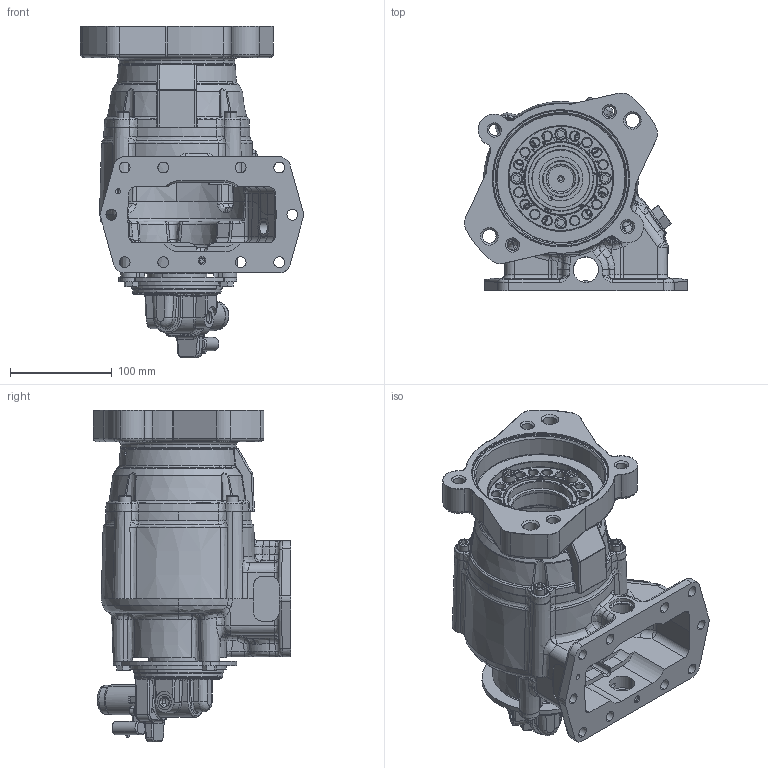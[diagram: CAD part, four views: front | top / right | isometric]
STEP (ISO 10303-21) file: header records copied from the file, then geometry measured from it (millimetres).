
FILE_DESCRIPTION (( 'STEP AP203' ), '1' );
FILE_NAME ('A20-A10XX-HX3CCPX.STEP', '2023-03-28T13:46:54', ( '' ), ( '' ), 'SwSTEP 2.0', 'SolidWorks 2021', '' );
FILE_SCHEMA (( 'CONFIG_CONTROL_DESIGN' ));
Length unit declared in the file: inch
Products named in the file (14): 01T43433_3Arrangement; 12T36701; 25T35999TMP; 47T6123TMP_Solenoid; 15T65391DB3; 19T36588_19T36588; 19T62950; 35T40860; 47T6123_15T43431_DUST CAP INSTALLED; A20-A10XX-HX3CCPX; 14T65449; SC-301_25T37702; DropInSolenoidRearCoverAssembly; 15T43431_FOR CLAMPS
Assembly tree (21 placements, depth 4):
  A20-A10XX-HX3CCPX
    01T43433_3Arrangement
    15T65391DB3
    25T35999TMP
    19T36588_19T36588  x8
    DropInSolenoidRearCoverAssembly
      47T6123TMP_Solenoid
      47T6123_15T43431_DUST CAP INSTALLED
        15T43431_FOR CLAMPS
        19T62950  x2
        12T36701
        SC-301_25T37702
    14T65449
    35T40860
Bounding box: 219.36 x 194.22 x 326.24 mm (x, y, z)
Volume: 973854.6 mm3; surface area: 490558.7 mm2
Topology: 26 solids, 38 shells, 3589 faces, 8871 edges, 5439 vertices
Faces by surface type: plane 1131, bspline 939, cylinder 776, cone 438, torus 269, sphere 36
Entity records: 167770 total; most frequent: CARTESIAN_POINT 91018, ORIENTED_EDGE 16764, DIRECTION 14025, EDGE_CURVE 8391, AXIS2_PLACEMENT_3D 5401, VERTEX_POINT 5207, EDGE_LOOP 3757, FACE_OUTER_BOUND 3422
